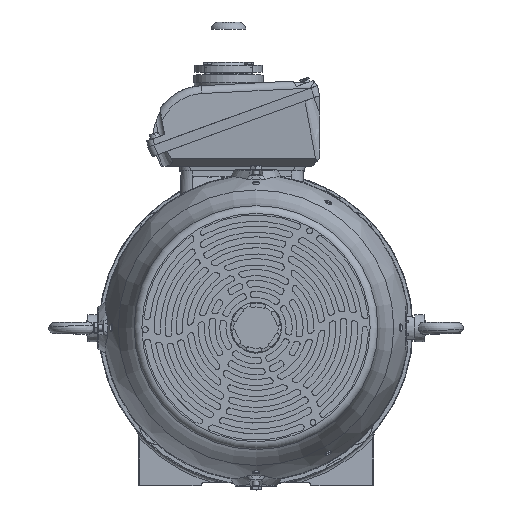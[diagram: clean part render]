
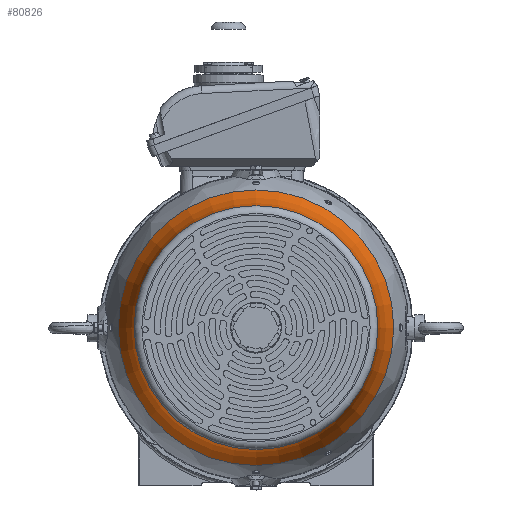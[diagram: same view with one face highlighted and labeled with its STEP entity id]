
A CAD part, top view. The second image highlights one B-rep face of the part: STEP entity #80826.
In plain terms, the highlighted toroidal (fillet/blend) face has major radius 333.581 mm and minor radius 178.663 mm.
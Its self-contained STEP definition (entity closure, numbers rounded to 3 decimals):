
#4912=TOROIDAL_SURFACE('',#86378,333.581,178.663);
#8702=FACE_OUTER_BOUND('',#13415,.T.);
#13415=EDGE_LOOP('',(#57843,#57844,#57845,#57846,#57847,#57848));
#17914=CIRCLE('',#86379,155.304);
#17915=CIRCLE('',#86380,155.304);
#17916=CIRCLE('',#86381,178.663);
#17917=CIRCLE('',#86382,175.502);
#17918=CIRCLE('',#86383,175.502);
#32974=VERTEX_POINT('',#147212);
#32975=VERTEX_POINT('',#147213);
#32976=VERTEX_POINT('',#147216);
#32977=VERTEX_POINT('',#147218);
#42106=EDGE_CURVE('',#32974,#32975,#17914,.T.);
#42107=EDGE_CURVE('',#32975,#32974,#17915,.T.);
#42108=EDGE_CURVE('',#32975,#32976,#17916,.T.);
#42109=EDGE_CURVE('',#32976,#32977,#17917,.T.);
#42110=EDGE_CURVE('',#32977,#32976,#17918,.T.);
#57843=ORIENTED_EDGE('',*,*,#42106,.F.);
#57844=ORIENTED_EDGE('',*,*,#42107,.F.);
#57845=ORIENTED_EDGE('',*,*,#42108,.T.);
#57846=ORIENTED_EDGE('',*,*,#42109,.T.);
#57847=ORIENTED_EDGE('',*,*,#42110,.T.);
#57848=ORIENTED_EDGE('',*,*,#42108,.F.);
#80826=ADVANCED_FACE('',(#8702),#4912,.F.);
#86378=AXIS2_PLACEMENT_3D('',#147211,#98736,#98737);
#86379=AXIS2_PLACEMENT_3D('',#147214,#98738,#98739);
#86380=AXIS2_PLACEMENT_3D('',#147215,#98740,#98741);
#86381=AXIS2_PLACEMENT_3D('',#147217,#98742,#98743);
#86382=AXIS2_PLACEMENT_3D('',#147219,#98744,#98745);
#86383=AXIS2_PLACEMENT_3D('',#147220,#98746,#98747);
#98736=DIRECTION('center_axis',(0.,0.,
1.));
#98737=DIRECTION('ref_axis',(0.,1.,0.));
#98738=DIRECTION('center_axis',(0.,0.,
1.));
#98739=DIRECTION('ref_axis',(0.,1.,0.));
#98740=DIRECTION('center_axis',(0.,0.,
1.));
#98741=DIRECTION('ref_axis',(0.,1.,0.));
#98742=DIRECTION('center_axis',(-1.,0.,0.));
#98743=DIRECTION('ref_axis',(0.,-1.,0.));
#98744=DIRECTION('center_axis',(0.,0.,
1.));
#98745=DIRECTION('ref_axis',(0.,1.,0.));
#98746=DIRECTION('center_axis',(0.,0.,
1.));
#98747=DIRECTION('ref_axis',(0.,1.,0.));
#147211=CARTESIAN_POINT('Origin',(0.,0.,
778.528));
#147212=CARTESIAN_POINT('',(0.,155.304,766.784));
#147213=CARTESIAN_POINT('',(0.,-155.304,766.784));
#147214=CARTESIAN_POINT('Origin',(0.,0.,
766.784));
#147215=CARTESIAN_POINT('Origin',(0.,0.,
766.784));
#147216=CARTESIAN_POINT('',(0.,-175.502,695.273));
#147217=CARTESIAN_POINT('Origin',(0.,-333.581,
778.528));
#147218=CARTESIAN_POINT('',(0.,175.502,695.273));
#147219=CARTESIAN_POINT('Origin',(0.,0.,
695.273));
#147220=CARTESIAN_POINT('Origin',(0.,0.,
695.273));
